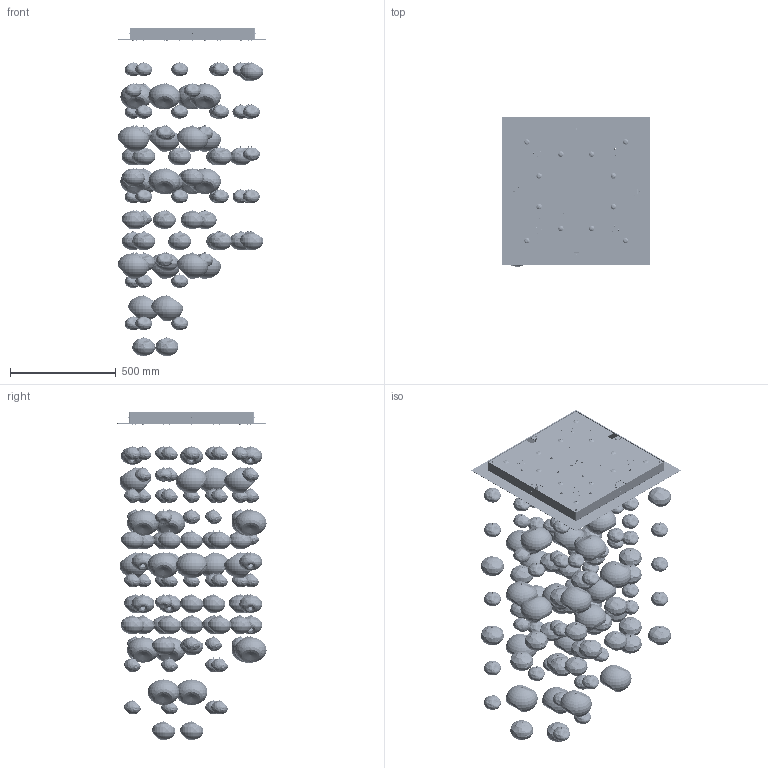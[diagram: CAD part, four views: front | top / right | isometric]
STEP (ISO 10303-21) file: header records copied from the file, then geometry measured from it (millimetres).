
FILE_DESCRIPTION(/* description */ (''),/* implementation_level */ '2;1');
FILE_NAME(/* name */ 'ETHER SQUARE B 150',/* time_stamp */ '2025-09-10T12:00:55+02:00',/* author */ (''),/* organization */ (''),/* preprocessor_version */ 'ST-DEVELOPER v16.5',/* originating_system */ 'Rhino 7.38',/* authorisation */ '');
FILE_SCHEMA (('CONFIG_CONTROL_DESIGN'));
Products named in the file (52): Document; DADO M4 DIN934 ZB; RONDELLA DENTELLATA ESTERNA M4; Z0033; Z0008; K011; RONDELLA M4 D.12 H1 ZINCATA DIN9021; VITE TCEI M4X6 UNI5931 ZB; VITE TCB M3X6 UNI7687 ZB; X0072; Z0009; 146C006; VITE TCEI M4X12 UNI5931 ZB; 146C010-G-927; Z0022; C026-927; C005; C008; B005; Vite TSP CR M3x8 zincata; VITE TC AUTOFIL M2,9X9,5 ZN UNI6954AB DIN7981C; K001; R001-36; 146C005; RONDELLA Ø7 H2 F.Ø3.2 STEAB 5021-2-118; VITE AUTOFIL. Ø2.9X6.5 TCC UNI 6954 AB; VITE TCEI M3X25 UNI5931 ZB; E007-0,5A; W037; Z017-P; W042; W044; 146C009; 146C009-1; 146C009-2; X0057-008; 146C003; 146C021-D; 146C016-H; 146C014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
Assembly tree (266 placements, depth 3):
  Document
    DADO M4 DIN934 ZB  x4
    RONDELLA DENTELLATA ESTERNA M4  x4
    Z0033  x4
      Z0008
      K011
    RONDELLA M4 D.12 H1 ZINCATA DIN9021  x4
    VITE TCEI M4X6 UNI5931 ZB  x4
    VITE TCB M3X6 UNI7687 ZB  x4
    X0072  x22
    Z0009  x22
    146C006  x22
    VITE TCEI M4X12 UNI5931 ZB  x4
    146C010-G-927  x4
      Z0022
      C026-927
      C005
      C008
      B005
      Vite TSP CR M3x8 zincata
      VITE TC AUTOFIL M2,9X9,5 ZN UNI6954AB DIN7981C
      K001
      R001-36
      146C005
      RONDELLA Ø7 H2 F.Ø3.2 STEAB 5021-2-118
      VITE AUTOFIL. Ø2.9X6.5 TCC UNI 6954 AB
      VITE TCEI M3X25 UNI5931 ZB
      E007-0,5A
      W037
      Z017-P
      W042
      W044
    146C009
      146C009-1
      146C009-2
      X0057-008  x5
    146C003
    146C021-D  x3
      146C016-H
      146C014
      146C013
      146C011
      SEEGER N.4 ZINCATO minetti
    146C021-A  x2
      146C016-E
      146C015
      146C013
      146C014
      SEEGER N.4 ZINCATO minetti
      146C011
    146C021-C  x4
      146C016-G
      146C014
      146C015
      146C013
      SEEGER N.4 ZINCATO minetti
      146C011
    146C021-E  x4
      146C016-G
      146C015
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Bounding box: 702.82 x 704.26 x 1549.12 mm (x, y, z)
Volume: 6364901.2 mm3; surface area: 9191770.5 mm2
Topology: 604 solids, 644 shells, 20502 faces, 53066 edges, 34798 vertices
Faces by surface type: plane 9937, cylinder 6405, bspline 4160
Full cylindrical faces by diameter (mm): 0.65 x5, 0.88 x8, 1 x127, 1.15 x16, 1.25 x4, 1.5 x16, 2 x44, 2.25 x8, 2.3 x16, 2.459 x19, 2.75 x4, 2.8 x8, 2.9 x28, 3 x154, 3.1 x8, 3.2 x12, 3.242 x12, 3.3 x30, 3.5 x22, 4 x43, 4.3 x12, 4.9 x4, 5 x8, 5.5 x21, 5.6 x8, 5.8 x4, 6 x40, 6.5 x56, 6.6 x8, 7 x30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
Entity records: 368477 total; most frequent: CARTESIAN_POINT 297450, ORIENTED_EDGE 16363, EDGE_CURVE 8183, VERTEX_POINT 5399, B_SPLINE_CURVE_WITH_KNOTS 5107, EDGE_LOOP 3556, DIRECTION 3117, ADVANCED_FACE 3053
